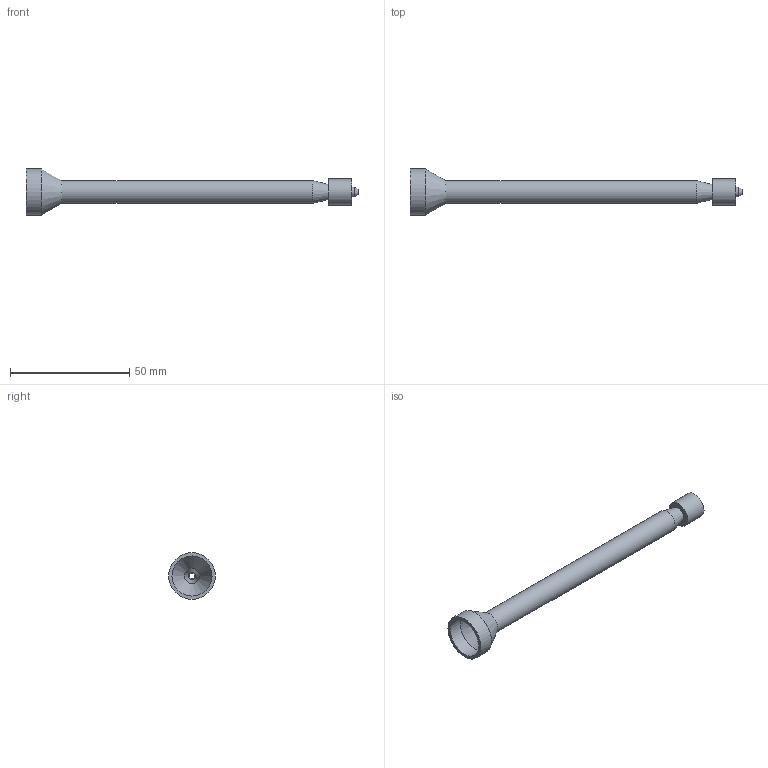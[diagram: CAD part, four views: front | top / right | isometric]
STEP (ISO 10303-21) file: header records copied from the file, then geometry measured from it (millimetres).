
FILE_DESCRIPTION (( 'STEP AP214' ), '1' );
FILE_NAME ('Mixer 6-16L.STEP', '2024-10-11T14:41:54', ( '' ), ( '' ), 'SwSTEP 2.0', 'SolidWorks 2024', '' );
FILE_SCHEMA (( 'AUTOMOTIVE_DESIGN' ));
Length unit declared in the file: millimetre
Products named in the file (1): Mixer 6-16L
Bounding box: 139 x 19.5 x 19.5 mm (x, y, z)
Volume: 5929.2 mm3; surface area: 8052.6 mm2
Topology: 1 solids, 1 shells, 18 faces, 36 edges, 22 vertices
Faces by surface type: cone 8, cylinder 6, plane 4
Full cylindrical faces by diameter (mm): 6.4 x1, 8 x1, 9.5 x1, 11 x1, 16.8 x1, 19.5 x1
Entity records: 391 total; most frequent: DIRECTION 74, CARTESIAN_POINT 55, AXIS2_PLACEMENT_3D 37, ORIENTED_EDGE 36, EDGE_LOOP 36, FACE_OUTER_BOUND 24, EDGE_CURVE 18, ADVANCED_FACE 18
